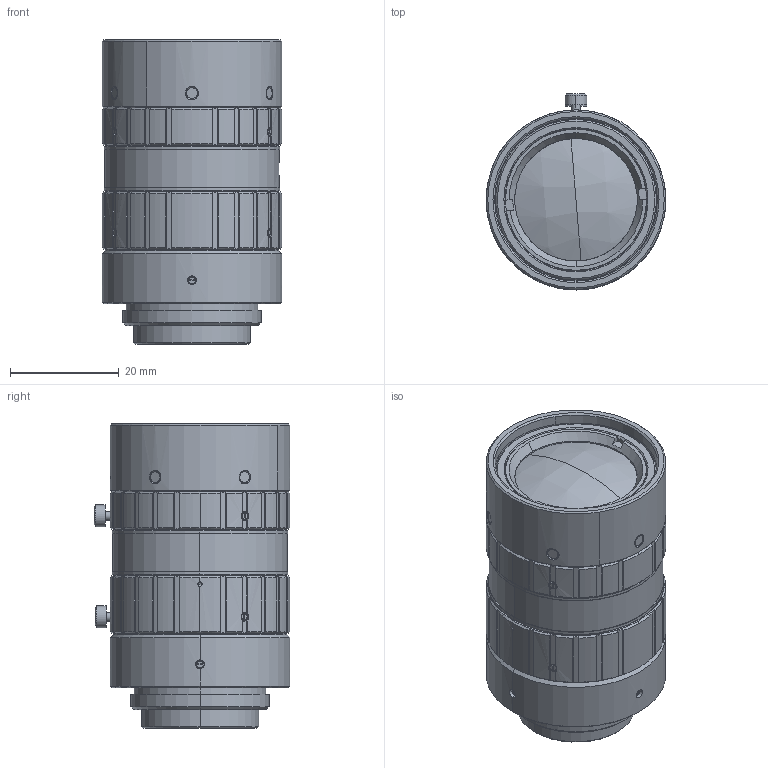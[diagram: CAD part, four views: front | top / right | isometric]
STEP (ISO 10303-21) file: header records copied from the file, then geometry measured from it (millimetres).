
FILE_DESCRIPTION(('CoCreate Modeling STEP Export'),'2;1');
FILE_NAME('HF818-12M_3D-outline.STEP','2022-05-31T12:36:15',(''),(''),'CoCreate Modeling STEP processor for AP214 (Solid Model)','CoCreate Modeling 17.0 01-Apr-2010 (C) Parametric Technology GmbH','');
FILE_SCHEMA(('AUTOMOTIVE_DESIGN { 1 0 10303 214 1 1 1 1 }'));
Length unit declared in the file: millimetre
Products named in the file (2): HF818-12M
Assembly tree (1 placements, depth 2):
  HF818-12M
    HF818-12M
Bounding box: 33 x 35.95 x 55.9 mm (x, y, z)
Volume: 41499.6 mm3; surface area: 9065.4 mm2
Topology: 1 solids, 1 shells, 448 faces, 1259 edges, 835 vertices
Faces by surface type: cylinder 178, plane 168, cone 96, sphere 4, bspline 2
Entity records: 15611 total; most frequent: CARTESIAN_POINT 4945, ORIENTED_EDGE 2510, DIRECTION 1937, EDGE_CURVE 1255, VERTEX_POINT 835, AXIS2_PLACEMENT_3D 659, VECTOR 619, LINE 619
